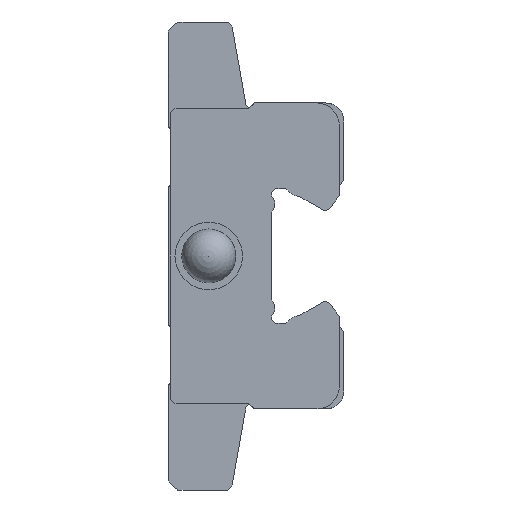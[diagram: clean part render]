
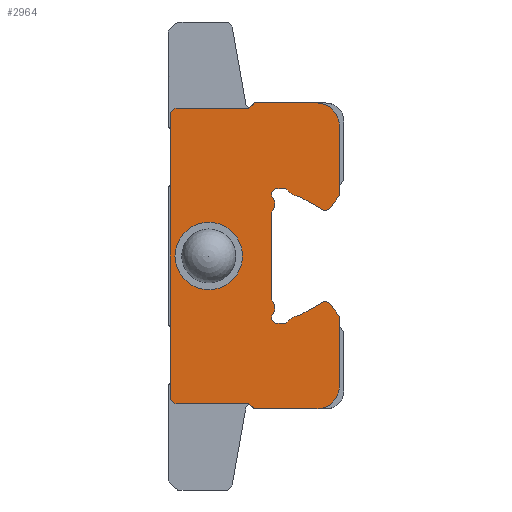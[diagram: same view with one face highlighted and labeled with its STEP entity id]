
A CAD part, left-side view. The second image highlights one B-rep face of the part: STEP entity #2964.
In plain terms, the highlighted planar face has unit normal (-1, 0, 0).
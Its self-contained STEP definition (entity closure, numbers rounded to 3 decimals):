
#61=LINE('',#4308,#383);
#102=LINE('',#4400,#424);
#112=LINE('',#4425,#434);
#138=LINE('',#4475,#460);
#141=LINE('',#4480,#463);
#143=LINE('',#4483,#465);
#162=LINE('',#4539,#484);
#163=LINE('',#4544,#485);
#164=LINE('',#4548,#486);
#165=LINE('',#4550,#487);
#166=LINE('',#4552,#488);
#167=LINE('',#4554,#489);
#168=LINE('',#4558,#490);
#169=LINE('',#4562,#491);
#170=LINE('',#4564,#492);
#171=LINE('',#4566,#493);
#172=LINE('',#4568,#494);
#173=LINE('',#4572,#495);
#174=LINE('',#4576,#496);
#175=LINE('',#4578,#497);
#176=LINE('',#4582,#498);
#177=LINE('',#4584,#499);
#178=LINE('',#4585,#500);
#179=LINE('',#4588,#501);
#383=VECTOR('',#3441,1000.);
#424=VECTOR('',#3506,1000.);
#434=VECTOR('',#3526,1000.);
#460=VECTOR('',#3564,1000.);
#463=VECTOR('',#3569,1000.);
#465=VECTOR('',#3573,1000.);
#484=VECTOR('',#3624,1000.);
#485=VECTOR('',#3627,1000.);
#486=VECTOR('',#3630,1000.);
#487=VECTOR('',#3631,1000.);
#488=VECTOR('',#3632,1000.);
#489=VECTOR('',#3633,1000.);
#490=VECTOR('',#3636,1000.);
#491=VECTOR('',#3639,1000.);
#492=VECTOR('',#3640,1000.);
#493=VECTOR('',#3641,1000.);
#494=VECTOR('',#3642,1000.);
#495=VECTOR('',#3645,1000.);
#496=VECTOR('',#3648,1000.);
#497=VECTOR('',#3649,1000.);
#498=VECTOR('',#3652,1000.);
#499=VECTOR('',#3653,1000.);
#500=VECTOR('',#3654,1000.);
#501=VECTOR('',#3657,1000.);
#732=PLANE('',#3173);
#1033=ORIENTED_EDGE('',*,*,#1863,.T.);
#1034=ORIENTED_EDGE('',*,*,#1864,.T.);
#1035=ORIENTED_EDGE('',*,*,#1865,.F.);
#1036=ORIENTED_EDGE('',*,*,#1866,.T.);
#1037=ORIENTED_EDGE('',*,*,#1867,.F.);
#1038=ORIENTED_EDGE('',*,*,#1868,.T.);
#1039=ORIENTED_EDGE('',*,*,#1869,.T.);
#1040=ORIENTED_EDGE('',*,*,#1870,.T.);
#1041=ORIENTED_EDGE('',*,*,#1871,.T.);
#1042=ORIENTED_EDGE('',*,*,#1872,.F.);
#1043=ORIENTED_EDGE('',*,*,#1873,.T.);
#1044=ORIENTED_EDGE('',*,*,#1874,.F.);
#1045=ORIENTED_EDGE('',*,*,#1875,.T.);
#1046=ORIENTED_EDGE('',*,*,#1876,.T.);
#1047=ORIENTED_EDGE('',*,*,#1877,.T.);
#1048=ORIENTED_EDGE('',*,*,#1878,.T.);
#1049=ORIENTED_EDGE('',*,*,#1879,.F.);
#1050=ORIENTED_EDGE('',*,*,#1880,.T.);
#1051=ORIENTED_EDGE('',*,*,#1881,.F.);
#1052=ORIENTED_EDGE('',*,*,#1882,.T.);
#1053=ORIENTED_EDGE('',*,*,#1883,.F.);
#1054=ORIENTED_EDGE('',*,*,#1884,.F.);
#1055=ORIENTED_EDGE('',*,*,#1885,.F.);
#1056=ORIENTED_EDGE('',*,*,#1886,.F.);
#1057=ORIENTED_EDGE('',*,*,#1805,.F.);
#1058=ORIENTED_EDGE('',*,*,#1836,.F.);
#1059=ORIENTED_EDGE('',*,*,#1831,.F.);
#1060=ORIENTED_EDGE('',*,*,#1834,.F.);
#1061=ORIENTED_EDGE('',*,*,#1793,.F.);
#1062=ORIENTED_EDGE('',*,*,#1887,.F.);
#1063=ORIENTED_EDGE('',*,*,#1750,.F.);
#1064=ORIENTED_EDGE('',*,*,#1888,.F.);
#1065=ORIENTED_EDGE('',*,*,#1889,.F.);
#1750=EDGE_CURVE('',#2182,#2180,#61,.T.);
#1793=EDGE_CURVE('',#2221,#2222,#102,.T.);
#1805=EDGE_CURVE('',#2231,#2232,#112,.T.);
#1831=EDGE_CURVE('',#2249,#2250,#138,.T.);
#1834=EDGE_CURVE('',#2222,#2249,#141,.T.);
#1836=EDGE_CURVE('',#2250,#2231,#143,.T.);
#1863=EDGE_CURVE('',#2271,#2271,#2469,.T.);
#1864=EDGE_CURVE('',#2272,#2273,#162,.T.);
#1865=EDGE_CURVE('',#2274,#2273,#2470,.T.);
#1866=EDGE_CURVE('',#2274,#2275,#163,.T.);
#1867=EDGE_CURVE('',#2276,#2275,#2471,.T.);
#1868=EDGE_CURVE('',#2276,#2277,#164,.T.);
#1869=EDGE_CURVE('',#2277,#2278,#165,.T.);
#1870=EDGE_CURVE('',#2278,#2279,#166,.T.);
#1871=EDGE_CURVE('',#2279,#2280,#167,.T.);
#1872=EDGE_CURVE('',#2281,#2280,#2472,.T.);
#1873=EDGE_CURVE('',#2281,#2282,#168,.T.);
#1874=EDGE_CURVE('',#2283,#2282,#2473,.T.);
#1875=EDGE_CURVE('',#2283,#2284,#169,.T.);
#1876=EDGE_CURVE('',#2284,#2285,#170,.T.);
#1877=EDGE_CURVE('',#2285,#2286,#171,.T.);
#1878=EDGE_CURVE('',#2286,#2287,#172,.T.);
#1879=EDGE_CURVE('',#2288,#2287,#2474,.T.);
#1880=EDGE_CURVE('',#2288,#2289,#173,.T.);
#1881=EDGE_CURVE('',#2290,#2289,#2475,.T.);
#1882=EDGE_CURVE('',#2290,#2291,#174,.T.);
#1883=EDGE_CURVE('',#2292,#2291,#175,.T.);
#1884=EDGE_CURVE('',#2293,#2292,#2476,.T.);
#1885=EDGE_CURVE('',#2294,#2293,#176,.T.);
#1886=EDGE_CURVE('',#2232,#2294,#177,.T.);
#1887=EDGE_CURVE('',#2180,#2221,#178,.T.);
#1888=EDGE_CURVE('',#2295,#2182,#2477,.T.);
#1889=EDGE_CURVE('',#2272,#2295,#179,.T.);
#2180=VERTEX_POINT('',#4303);
#2182=VERTEX_POINT('',#4307);
#2221=VERTEX_POINT('',#4399);
#2222=VERTEX_POINT('',#4401);
#2231=VERTEX_POINT('',#4424);
#2232=VERTEX_POINT('',#4426);
#2249=VERTEX_POINT('',#4474);
#2250=VERTEX_POINT('',#4476);
#2271=VERTEX_POINT('',#4538);
#2272=VERTEX_POINT('',#4540);
#2273=VERTEX_POINT('',#4541);
#2274=VERTEX_POINT('',#4543);
#2275=VERTEX_POINT('',#4545);
#2276=VERTEX_POINT('',#4547);
#2277=VERTEX_POINT('',#4549);
#2278=VERTEX_POINT('',#4551);
#2279=VERTEX_POINT('',#4553);
#2280=VERTEX_POINT('',#4555);
#2281=VERTEX_POINT('',#4557);
#2282=VERTEX_POINT('',#4559);
#2283=VERTEX_POINT('',#4561);
#2284=VERTEX_POINT('',#4563);
#2285=VERTEX_POINT('',#4565);
#2286=VERTEX_POINT('',#4567);
#2287=VERTEX_POINT('',#4569);
#2288=VERTEX_POINT('',#4571);
#2289=VERTEX_POINT('',#4573);
#2290=VERTEX_POINT('',#4575);
#2291=VERTEX_POINT('',#4577);
#2292=VERTEX_POINT('',#4579);
#2293=VERTEX_POINT('',#4581);
#2294=VERTEX_POINT('',#4583);
#2295=VERTEX_POINT('',#4587);
#2469=CIRCLE('',#3174,2.);
#2470=CIRCLE('',#3175,0.7);
#2471=CIRCLE('',#3176,1.45);
#2472=CIRCLE('',#3177,1.45);
#2473=CIRCLE('',#3178,1.45);
#2474=CIRCLE('',#3179,1.45);
#2475=CIRCLE('',#3180,0.7);
#2476=CIRCLE('',#3181,2.5);
#2477=CIRCLE('',#3182,2.5);
#2585=EDGE_LOOP('',(#1033));
#2586=EDGE_LOOP('',(#1034,#1035,#1036,#1037,#1038,#1039,#1040,#1041,#1042,
#1043,#1044,#1045,#1046,#1047,#1048,#1049,#1050,#1051,#1052,#1053,#1054,
#1055,#1056,#1057,#1058,#1059,#1060,#1061,#1062,#1063,#1064,#1065));
#2779=FACE_BOUND('',#2585,.T.);
#2780=FACE_BOUND('',#2586,.T.);
#2964=ADVANCED_FACE('',(#2779,#2780),#732,.F.);
#3173=AXIS2_PLACEMENT_3D('',#4536,#3620,#3621);
#3174=AXIS2_PLACEMENT_3D('',#4537,#3622,#3623);
#3175=AXIS2_PLACEMENT_3D('',#4542,#3625,#3626);
#3176=AXIS2_PLACEMENT_3D('',#4546,#3628,#3629);
#3177=AXIS2_PLACEMENT_3D('',#4556,#3634,#3635);
#3178=AXIS2_PLACEMENT_3D('',#4560,#3637,#3638);
#3179=AXIS2_PLACEMENT_3D('',#4570,#3643,#3644);
#3180=AXIS2_PLACEMENT_3D('',#4574,#3646,#3647);
#3181=AXIS2_PLACEMENT_3D('',#4580,#3650,#3651);
#3182=AXIS2_PLACEMENT_3D('',#4586,#3655,#3656);
#3441=DIRECTION('',(0.,1.,0.));
#3506=DIRECTION('',(0.,1.,0.));
#3526=DIRECTION('',(0.,-1.,0.));
#3564=DIRECTION('',(0.,0.,1.));
#3569=DIRECTION('',(0.,0.707,0.707));
#3573=DIRECTION('',(0.,-0.707,0.707));
#3620=DIRECTION('',(1.,0.,0.));
#3621=DIRECTION('',(0.,0.,-1.));
#3622=DIRECTION('',(1.,0.,0.));
#3623=DIRECTION('',(0.,0.,-1.));
#3624=DIRECTION('',(0.,0.607,0.794));
#3625=DIRECTION('',(1.,0.,0.));
#3626=DIRECTION('',(0.,0.,-1.));
#3627=DIRECTION('',(0.,0.869,-0.495));
#3628=DIRECTION('',(1.,0.,0.));
#3629=DIRECTION('',(0.,0.,-1.));
#3630=DIRECTION('',(0.,0.869,-0.495));
#3631=DIRECTION('',(0.,1.,0.));
#3632=DIRECTION('',(0.,0.707,0.707));
#3633=DIRECTION('',(0.,0.,1.));
#3634=DIRECTION('',(1.,0.,0.));
#3635=DIRECTION('',(0.,0.,-1.));
#3636=DIRECTION('',(0.,0.,1.));
#3637=DIRECTION('',(1.,0.,0.));
#3638=DIRECTION('',(0.,0.,-1.));
#3639=DIRECTION('',(0.,0.,1.));
#3640=DIRECTION('',(0.,-0.707,0.707));
#3641=DIRECTION('',(0.,-1.,0.));
#3642=DIRECTION('',(0.,-0.869,-0.495));
#3643=DIRECTION('',(1.,0.,0.));
#3644=DIRECTION('',(0.,0.,-1.));
#3645=DIRECTION('',(0.,-0.869,-0.495));
#3646=DIRECTION('',(1.,0.,0.));
#3647=DIRECTION('',(0.,0.,-1.));
#3648=DIRECTION('',(0.,-0.607,0.794));
#3649=DIRECTION('',(0.,0.,-1.));
#3650=DIRECTION('',(1.,0.,0.));
#3651=DIRECTION('',(0.,0.,-1.));
#3652=DIRECTION('',(0.,-1.,0.));
#3653=DIRECTION('',(0.,-0.707,0.707));
#3654=DIRECTION('',(0.,0.707,0.707));
#3655=DIRECTION('',(1.,0.,0.));
#3656=DIRECTION('',(0.,0.,-1.));
#3657=DIRECTION('',(0.,0.,-1.));
#4303=CARTESIAN_POINT('',(-28.45,9.95,-17.));
#4307=CARTESIAN_POINT('',(-28.45,3.,-17.));
#4308=CARTESIAN_POINT('',(-28.45,3.,-17.));
#4399=CARTESIAN_POINT('',(-28.45,10.55,-16.4));
#4400=CARTESIAN_POINT('',(-28.45,10.55,-16.4));
#4401=CARTESIAN_POINT('',(-28.45,18.75,-16.4));
#4424=CARTESIAN_POINT('',(-28.45,18.75,16.4));
#4425=CARTESIAN_POINT('',(-28.45,18.75,16.4));
#4426=CARTESIAN_POINT('',(-28.45,10.55,16.4));
#4474=CARTESIAN_POINT('',(-28.45,19.25,-15.9));
#4475=CARTESIAN_POINT('',(-28.45,19.25,-15.9));
#4476=CARTESIAN_POINT('',(-28.45,19.25,15.9));
#4480=CARTESIAN_POINT('',(-28.45,18.75,-16.4));
#4483=CARTESIAN_POINT('',(-28.45,19.25,15.9));
#4536=CARTESIAN_POINT('',(-28.45,3.,14.5));
#4537=CARTESIAN_POINT('',(-28.45,15.,0.));
#4538=CARTESIAN_POINT('',(-28.45,15.,-2.));
#4539=CARTESIAN_POINT('',(-28.45,0.5,-6.685));
#4540=CARTESIAN_POINT('',(-28.45,0.5,-6.685));
#4541=CARTESIAN_POINT('',(-28.45,1.47,-5.416));
#4542=CARTESIAN_POINT('',(-28.45,2.076,-5.766));
#4543=CARTESIAN_POINT('',(-28.45,2.575,-5.275));
#4544=CARTESIAN_POINT('',(-28.45,2.575,-5.275));
#4545=CARTESIAN_POINT('',(-28.45,5.001,-6.658));
#4546=CARTESIAN_POINT('',(-28.45,5.045,-8.107));
#4547=CARTESIAN_POINT('',(-28.45,6.314,-7.406));
#4548=CARTESIAN_POINT('',(-28.45,6.314,-7.406));
#4549=CARTESIAN_POINT('',(-28.45,6.479,-7.5));
#4550=CARTESIAN_POINT('',(-28.45,6.479,-7.5));
#4551=CARTESIAN_POINT('',(-28.45,7.55,-7.5));
#4552=CARTESIAN_POINT('',(-28.45,7.55,-7.5));
#4553=CARTESIAN_POINT('',(-28.45,8.,-7.05));
#4554=CARTESIAN_POINT('',(-28.45,8.,-7.05));
#4555=CARTESIAN_POINT('',(-28.45,8.,-6.666));
#4556=CARTESIAN_POINT('',(-28.45,9.128,-5.755));
#4557=CARTESIAN_POINT('',(-28.45,8.,-4.844));
#4558=CARTESIAN_POINT('',(-28.45,8.,-4.844));
#4559=CARTESIAN_POINT('',(-28.45,8.,4.844));
#4560=CARTESIAN_POINT('',(-28.45,9.128,5.755));
#4561=CARTESIAN_POINT('',(-28.45,8.,6.666));
#4562=CARTESIAN_POINT('',(-28.45,8.,6.666));
#4563=CARTESIAN_POINT('',(-28.45,8.,7.05));
#4564=CARTESIAN_POINT('',(-28.45,8.,7.05));
#4565=CARTESIAN_POINT('',(-28.45,7.55,7.5));
#4566=CARTESIAN_POINT('',(-28.45,7.55,7.5));
#4567=CARTESIAN_POINT('',(-28.45,6.479,7.5));
#4568=CARTESIAN_POINT('',(-28.45,6.479,7.5));
#4569=CARTESIAN_POINT('',(-28.45,6.314,7.406));
#4570=CARTESIAN_POINT('',(-28.45,5.045,8.107));
#4571=CARTESIAN_POINT('',(-28.45,5.001,6.658));
#4572=CARTESIAN_POINT('',(-28.45,5.001,6.658));
#4573=CARTESIAN_POINT('',(-28.45,2.575,5.275));
#4574=CARTESIAN_POINT('',(-28.45,2.076,5.766));
#4575=CARTESIAN_POINT('',(-28.45,1.47,5.416));
#4576=CARTESIAN_POINT('',(-28.45,1.47,5.416));
#4577=CARTESIAN_POINT('',(-28.45,0.5,6.685));
#4578=CARTESIAN_POINT('',(-28.45,0.5,14.5));
#4579=CARTESIAN_POINT('',(-28.45,0.5,14.5));
#4580=CARTESIAN_POINT('',(-28.45,3.,14.5));
#4581=CARTESIAN_POINT('',(-28.45,3.,17.));
#4582=CARTESIAN_POINT('',(-28.45,9.95,17.));
#4583=CARTESIAN_POINT('',(-28.45,9.95,17.));
#4584=CARTESIAN_POINT('',(-28.45,10.55,16.4));
#4585=CARTESIAN_POINT('',(-28.45,9.95,-17.));
#4586=CARTESIAN_POINT('',(-28.45,3.,-14.5));
#4587=CARTESIAN_POINT('',(-28.45,0.5,-14.5));
#4588=CARTESIAN_POINT('',(-28.45,0.5,14.5));
